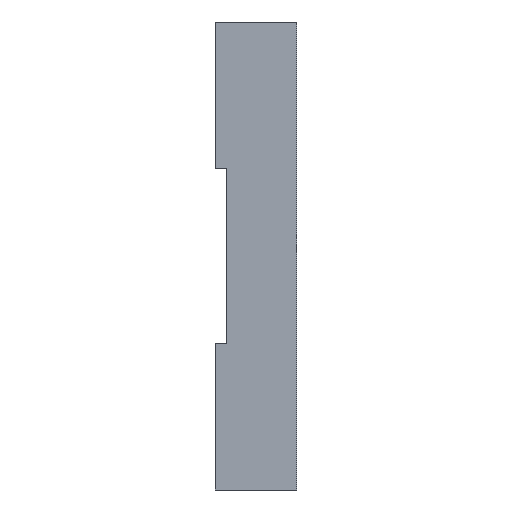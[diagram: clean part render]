
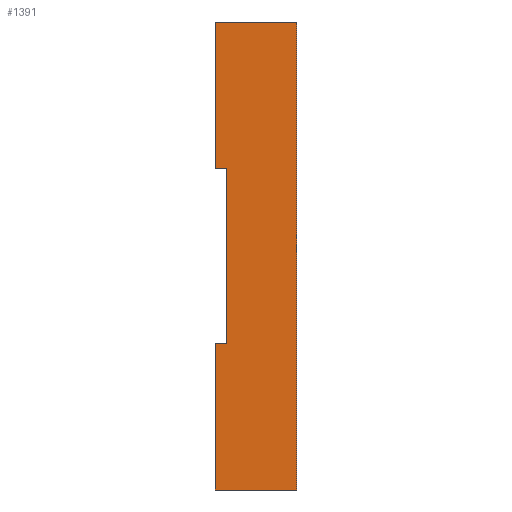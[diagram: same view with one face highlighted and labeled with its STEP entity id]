
A CAD part, left-side view. The second image highlights one B-rep face of the part: STEP entity #1391.
In plain terms, the highlighted planar face has unit normal (-1, 0, 0).
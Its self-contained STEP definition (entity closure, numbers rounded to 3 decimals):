
#22 = EDGE_CURVE ( 'NONE', #2089, #2083, #2347, .T. ) ;
#23 = EDGE_CURVE ( 'NONE', #2089, #2078, #2345, .T. ) ;
#24 = EDGE_CURVE ( 'NONE', #2078, #2077, #2349, .T. ) ;
#25 = EDGE_CURVE ( 'NONE', #2082, #2077, #2353, .T. ) ;
#26 = EDGE_CURVE ( 'NONE', #2081, #2082, #2351, .T. ) ;
#27 = EDGE_CURVE ( 'NONE', #2081, #2074, #2357, .T. ) ;
#28 = EDGE_CURVE ( 'NONE', #2079, #2074, #2359, .T. ) ;
#29 = EDGE_CURVE ( 'NONE', #2079, #2083, #2355, .T. ) ;
#472 = ORIENTED_EDGE ( 'NONE', *, *, #22, .F. ) ;
#474 = ORIENTED_EDGE ( 'NONE', *, *, #28, .F. ) ;
#475 = ORIENTED_EDGE ( 'NONE', *, *, #23, .T. ) ;
#476 = ORIENTED_EDGE ( 'NONE', *, *, #25, .F. ) ;
#477 = ORIENTED_EDGE ( 'NONE', *, *, #27, .T. ) ;
#486 = ORIENTED_EDGE ( 'NONE', *, *, #24, .T. ) ;
#494 = ORIENTED_EDGE ( 'NONE', *, *, #26, .F. ) ;
#504 = ORIENTED_EDGE ( 'NONE', *, *, #29, .T. ) ;
#761 = FACE_OUTER_BOUND ( 'NONE', #2304, .T. ) ;
#1040 = AXIS2_PLACEMENT_3D ( 'NONE', #1158, #1167, #1168 ) ;
#1158 = CARTESIAN_POINT ( 'NONE',  ( -59., 0., 40. ) ) ;
#1165 = PLANE ( 'NONE',  #1040 ) ;
#1167 = DIRECTION ( 'NONE',  ( 1., 0., 0. ) ) ;
#1168 = DIRECTION ( 'NONE',  ( 0., 0., -1. ) ) ;
#1391 = ADVANCED_FACE ( 'NONE', ( #761 ), #1165, .F. ) ;
#1495 = CARTESIAN_POINT ( 'NONE',  ( -59., 14., 15. ) ) ;
#1498 = CARTESIAN_POINT ( 'NONE',  ( -59., 0., -40. ) ) ;
#1499 = CARTESIAN_POINT ( 'NONE',  ( -59., 14., -40. ) ) ;
#1500 = CARTESIAN_POINT ( 'NONE',  ( -59., 12., 15. ) ) ;
#1502 = CARTESIAN_POINT ( 'NONE',  ( -59., 14., 40. ) ) ;
#1503 = CARTESIAN_POINT ( 'NONE',  ( -59., 0., 40. ) ) ;
#1504 = CARTESIAN_POINT ( 'NONE',  ( -59., 12., -15. ) ) ;
#1510 = CARTESIAN_POINT ( 'NONE',  ( -59., 14., -15. ) ) ;
#1572 = CARTESIAN_POINT ( 'NONE',  ( -59., 14., 40. ) ) ;
#1574 = CARTESIAN_POINT ( 'NONE',  ( -59., 0., -40. ) ) ;
#1576 = CARTESIAN_POINT ( 'NONE',  ( -59., 0., -15. ) ) ;
#1577 = CARTESIAN_POINT ( 'NONE',  ( -59., 0., 40. ) ) ;
#1578 = DIRECTION ( 'NONE',  ( 0., -1., 0. ) ) ;
#1579 = DIRECTION ( 'NONE',  ( 0., 0., -1. ) ) ;
#1580 = CARTESIAN_POINT ( 'NONE',  ( -59., 12., 40. ) ) ;
#1581 = DIRECTION ( 'NONE',  ( 0., -1., 0. ) ) ;
#1582 = CARTESIAN_POINT ( 'NONE',  ( -59., 0., 40. ) ) ;
#1584 = DIRECTION ( 'NONE',  ( 0., 0., -1. ) ) ;
#1585 = DIRECTION ( 'NONE',  ( 0., -1., 0. ) ) ;
#1586 = CARTESIAN_POINT ( 'NONE',  ( -59., 14., 40. ) ) ;
#1587 = DIRECTION ( 'NONE',  ( 0., 0., -1. ) ) ;
#1588 = CARTESIAN_POINT ( 'NONE',  ( -59., 0., 15. ) ) ;
#1590 = DIRECTION ( 'NONE',  ( 0., 1., 0. ) ) ;
#1591 = DIRECTION ( 'NONE',  ( 0., 0., -1. ) ) ;
#2074 = VERTEX_POINT ( 'NONE', #1495 ) ;
#2077 = VERTEX_POINT ( 'NONE', #1498 ) ;
#2078 = VERTEX_POINT ( 'NONE', #1499 ) ;
#2079 = VERTEX_POINT ( 'NONE', #1500 ) ;
#2081 = VERTEX_POINT ( 'NONE', #1502 ) ;
#2082 = VERTEX_POINT ( 'NONE', #1503 ) ;
#2083 = VERTEX_POINT ( 'NONE', #1504 ) ;
#2089 = VERTEX_POINT ( 'NONE', #1510 ) ;
#2304 = EDGE_LOOP ( 'NONE', ( #472, #475, #486, #476, #494, #477, #474, #504 ) ) ;
#2345 = LINE ( 'NONE', #1572, #2352 ) ;
#2347 = LINE ( 'NONE', #1576, #2350 ) ;
#2349 = LINE ( 'NONE', #1574, #2354 ) ;
#2350 = VECTOR ( 'NONE', #1578, 1000. ) ;
#2351 = LINE ( 'NONE', #1577, #2358 ) ;
#2352 = VECTOR ( 'NONE', #1579, 1000. ) ;
#2353 = LINE ( 'NONE', #1582, #2356 ) ;
#2354 = VECTOR ( 'NONE', #1581, 1000. ) ;
#2355 = LINE ( 'NONE', #1580, #2364 ) ;
#2356 = VECTOR ( 'NONE', #1584, 1000. ) ;
#2357 = LINE ( 'NONE', #1586, #2360 ) ;
#2358 = VECTOR ( 'NONE', #1585, 1000. ) ;
#2359 = LINE ( 'NONE', #1588, #2362 ) ;
#2360 = VECTOR ( 'NONE', #1587, 1000. ) ;
#2362 = VECTOR ( 'NONE', #1590, 1000. ) ;
#2364 = VECTOR ( 'NONE', #1591, 1000. ) ;
